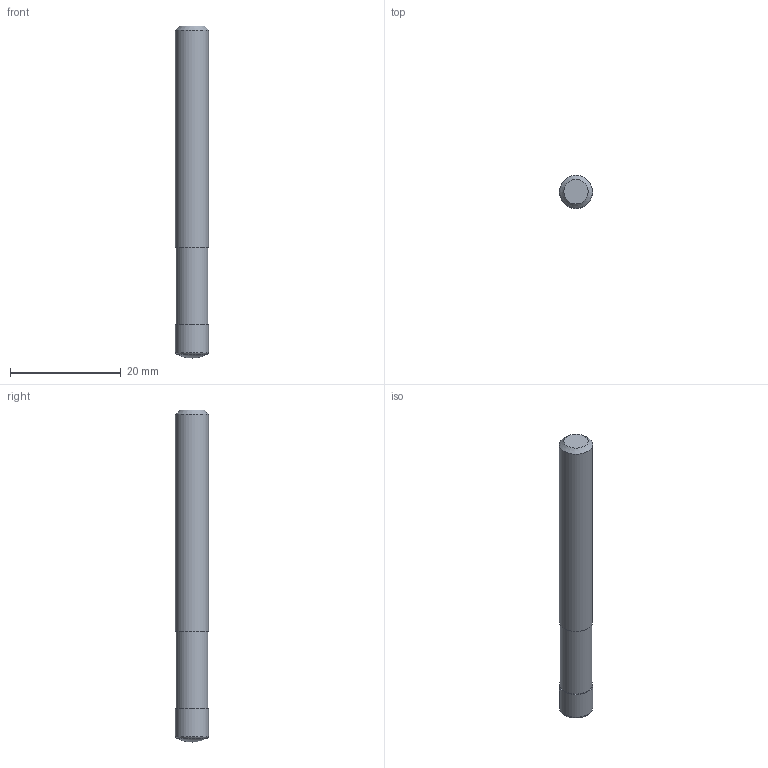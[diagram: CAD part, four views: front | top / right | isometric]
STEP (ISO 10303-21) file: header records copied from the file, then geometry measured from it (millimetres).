
FILE_DESCRIPTION((''),'2;1');
FILE_NAME('C:\Users\nsx150\AppData\Local\Temp\Mastercam 2022\ZJNICECW0E\TEMP.stp','2023-10-12T14:35:01',(''),(''),'STEP Write','Mastercam 2022 ... CNC Software, Inc.','');
FILE_SCHEMA(('AUTOMOTIVE_DESIGN'));
Length unit declared in the file: millimetre
Products named in the file (1): None
Bounding box: 6 x 6 x 60 mm (x, y, z)
Volume: 1641.2 mm3; surface area: 1207.4 mm2
Topology: 2 solids, 2 shells, 11 faces, 17 edges, 11 vertices
Faces by surface type: plane 5, cylinder 3, torus 1, sphere 1, cone 1
Full cylindrical faces by diameter (mm): 5.7 x1, 6 x2
Entity records: 253 total; most frequent: DIRECTION 44, CARTESIAN_POINT 31, AXIS2_PLACEMENT_3D 22, ORIENTED_EDGE 18, EDGE_LOOP 18, STYLED_ITEM 14, FACE_BOUND 11, ADVANCED_FACE 11
